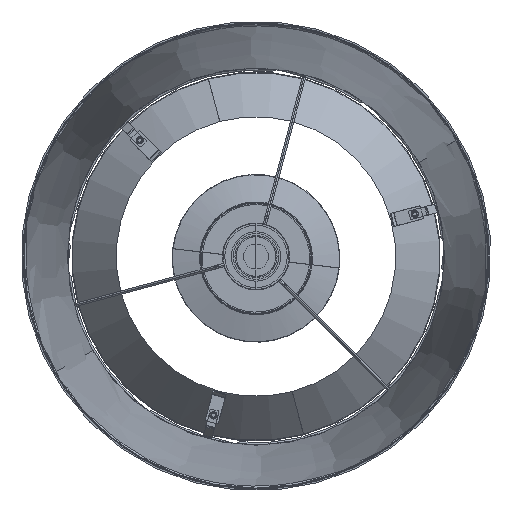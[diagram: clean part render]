
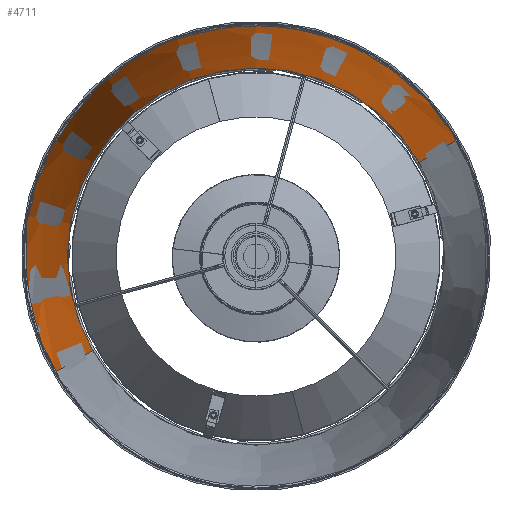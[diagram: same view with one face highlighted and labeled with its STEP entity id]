
A CAD part, top view. The second image highlights one B-rep face of the part: STEP entity #4711.
In plain terms, the highlighted conical face has half-angle 7.352 degrees and reference radius 203.583 mm.
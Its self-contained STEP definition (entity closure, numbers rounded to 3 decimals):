
#138=CONICAL_SURFACE('',#5197,203.583,0.128);
#544=FACE_OUTER_BOUND('',#858,.T.);
#858=EDGE_LOOP('',(#4302,#4303,#4304,#4305));
#1056=CIRCLE('',#5198,207.487);
#1057=CIRCLE('',#5199,168.447);
#1380=LINE('',#11562,#1706);
#1381=LINE('',#11566,#1707);
#1706=VECTOR('',#6466,304.8);
#1707=VECTOR('',#6469,304.8);
#2306=VERTEX_POINT('',#11560);
#2307=VERTEX_POINT('',#11561);
#2308=VERTEX_POINT('',#11563);
#2309=VERTEX_POINT('',#11565);
#3000=EDGE_CURVE('',#2306,#2307,#1380,.T.);
#3002=EDGE_CURVE('',#2309,#2308,#1381,.T.);
#3004=EDGE_CURVE('',#2306,#2308,#1056,.T.);
#3005=EDGE_CURVE('',#2309,#2307,#1057,.T.);
#4302=ORIENTED_EDGE('',*,*,#3002,.T.);
#4303=ORIENTED_EDGE('',*,*,#3004,.F.);
#4304=ORIENTED_EDGE('',*,*,#3000,.T.);
#4305=ORIENTED_EDGE('',*,*,#3005,.F.);
#4711=ADVANCED_FACE('',(#544),#138,.F.);
#5197=AXIS2_PLACEMENT_3D('',#11568,#6472,#6473);
#5198=AXIS2_PLACEMENT_3D('',#11569,#6474,#6475);
#5199=AXIS2_PLACEMENT_3D('',#11570,#6476,#6477);
#6466=DIRECTION('',(0.128,0.,0.992));
#6469=DIRECTION('',(0.128,0.,-0.992));
#6472=DIRECTION('center_axis',(0.,0.,
-1.));
#6473=DIRECTION('ref_axis',(-0.809,-0.588,0.));
#6474=DIRECTION('center_axis',(0.,0.,1.));
#6475=DIRECTION('ref_axis',(-0.809,-0.588,0.));
#6476=DIRECTION('center_axis',(0.,0.,-1.));
#6477=DIRECTION('ref_axis',(-0.809,-0.588,0.));
#11560=CARTESIAN_POINT('',(-207.487,0.,3.848));
#11561=CARTESIAN_POINT('',(-168.447,0.,306.41));
#11562=CARTESIAN_POINT('',(-207.487,0.,3.848));
#11563=CARTESIAN_POINT('',(207.487,0.,3.848));
#11565=CARTESIAN_POINT('',(168.447,0.,306.41));
#11566=CARTESIAN_POINT('',(168.447,0.,306.41));
#11568=CARTESIAN_POINT('Origin',(0.,0.,
34.104));
#11569=CARTESIAN_POINT('Origin',(0.,0.,
3.848));
#11570=CARTESIAN_POINT('Origin',(0.,0.,
306.41));
